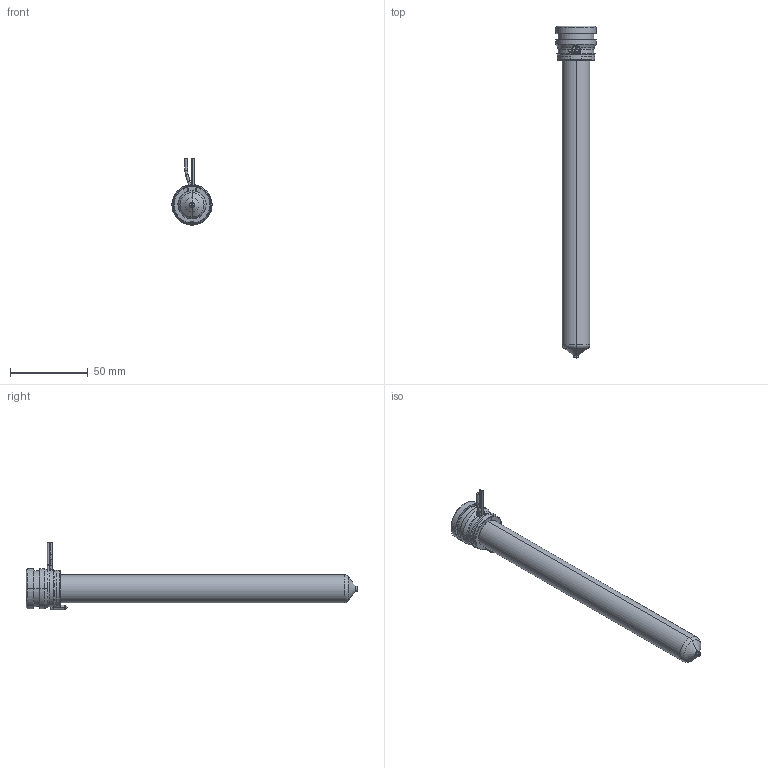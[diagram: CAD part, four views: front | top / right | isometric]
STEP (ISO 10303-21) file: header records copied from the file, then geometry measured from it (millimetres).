
FILE_DESCRIPTION((''),'2;1');
FILE_NAME('MPN-08-24-VP3-196-A','2026-02-05T12:02:40',('UPTIO'),('Thermoplay S.p.A.'),'CREO PARAMETRIC BY PTC INC, 2023494','CREO PARAMETRIC BY PTC INC, 2023494','');
FILE_SCHEMA(('CONFIG_CONTROL_DESIGN','SHAPE_APPEARANCE_LAYERS_GROUPS'));
Length unit declared in the file: millimetre
Products named in the file (1): MPN-08-24-VP3-196-A
Bounding box: 26 x 214.1 x 43.5 mm (x, y, z)
Volume: 39699 mm3; surface area: 52412.6 mm2
Topology: 2 solids, 3 shells, 587 faces, 1560 edges, 971 vertices
Faces by surface type: cylinder 184, plane 143, bspline 108, torus 70, cone 68, sphere 8, extrusion 6
Entity records: 31954 total; most frequent: CARTESIAN_POINT 14720, ORIENTED_EDGE 3104, DIRECTION 2714, EDGE_CURVE 1552, AXIS2_PLACEMENT_3D 1061, VERTEX_POINT 971, EDGE_LOOP 615, VECTOR 592
